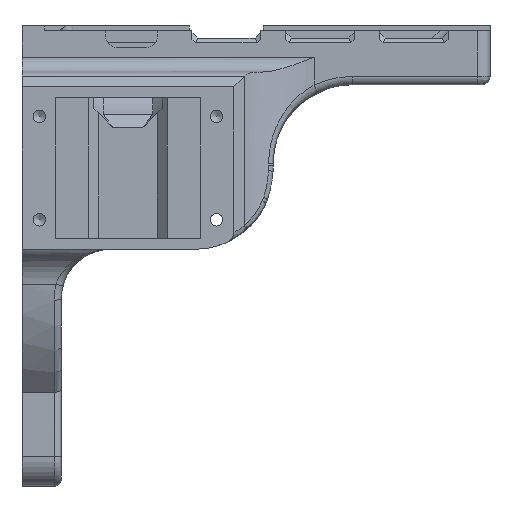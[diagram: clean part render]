
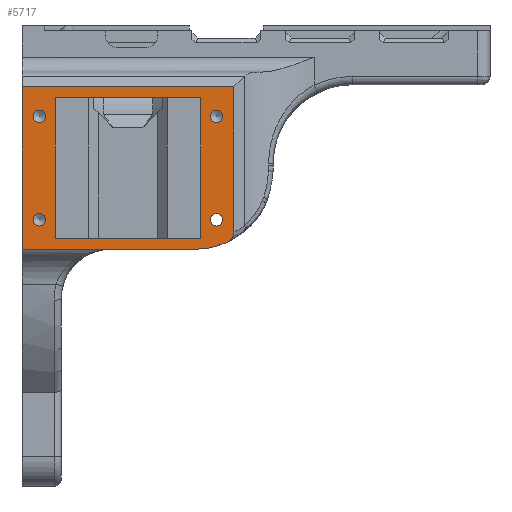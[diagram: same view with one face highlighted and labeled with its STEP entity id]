
A CAD part, front view. The second image highlights one B-rep face of the part: STEP entity #5717.
In plain terms, the highlighted planar face has unit normal (0, -1, 0).
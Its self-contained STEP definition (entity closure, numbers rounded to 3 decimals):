
#260=CIRCLE('',#6207,16.);
#261=CIRCLE('',#6208,1.265);
#262=CIRCLE('',#6209,1.265);
#263=CIRCLE('',#6210,1.265);
#264=CIRCLE('',#6211,1.265);
#369=PLANE('',#6206);
#502=FACE_BOUND('',#1014,.T.);
#503=FACE_BOUND('',#1015,.T.);
#504=FACE_BOUND('',#1016,.T.);
#505=FACE_BOUND('',#1017,.T.);
#506=FACE_BOUND('',#1018,.T.);
#664=FACE_OUTER_BOUND('',#1013,.T.);
#1013=EDGE_LOOP('',(#4597,#4598,#4599,#4600,#4601,#4602));
#1014=EDGE_LOOP('',(#4603));
#1015=EDGE_LOOP('',(#4604));
#1016=EDGE_LOOP('',(#4605));
#1017=EDGE_LOOP('',(#4606));
#1018=EDGE_LOOP('',(#4607,#4608,#4609,#4610));
#1206=LINE('',#8165,#1679);
#1405=LINE('',#9667,#1878);
#1432=LINE('',#10165,#1905);
#1433=LINE('',#10167,#1906);
#1434=LINE('',#10179,#1907);
#1435=LINE('',#10181,#1908);
#1436=LINE('',#10183,#1909);
#1437=LINE('',#10184,#1910);
#1679=VECTOR('',#6496,10.);
#1878=VECTOR('',#7143,10.);
#1905=VECTOR('',#7324,10.);
#1906=VECTOR('',#7325,10.);
#1907=VECTOR('',#7336,10.);
#1908=VECTOR('',#7337,10.);
#1909=VECTOR('',#7338,10.);
#1910=VECTOR('',#7339,10.);
#2211=B_SPLINE_CURVE_WITH_KNOTS('',3,(#9948,#9949,#9950,#9951,#9952,#9953,
#9954,#9955,#9956,#9957),.UNSPECIFIED.,.F.,.F.,(4,2,2,2,4),(0.,0.057,
0.133,0.197,0.265),.UNSPECIFIED.);
#2315=VERTEX_POINT('',#8162);
#2316=VERTEX_POINT('',#8164);
#2598=VERTEX_POINT('',#9664);
#2599=VERTEX_POINT('',#9666);
#2627=VERTEX_POINT('',#9947);
#2648=VERTEX_POINT('',#10166);
#2649=VERTEX_POINT('',#10169);
#2650=VERTEX_POINT('',#10171);
#2651=VERTEX_POINT('',#10173);
#2652=VERTEX_POINT('',#10175);
#2653=VERTEX_POINT('',#10177);
#2654=VERTEX_POINT('',#10178);
#2655=VERTEX_POINT('',#10180);
#2656=VERTEX_POINT('',#10182);
#2884=EDGE_CURVE('',#2316,#2315,#1206,.T.);
#3276=EDGE_CURVE('',#2599,#2598,#1405,.T.);
#3328=EDGE_CURVE('',#2599,#2627,#2211,.T.);
#3366=EDGE_CURVE('',#2316,#2598,#1432,.T.);
#3367=EDGE_CURVE('',#2315,#2648,#1433,.T.);
#3368=EDGE_CURVE('',#2627,#2648,#260,.T.);
#3369=EDGE_CURVE('',#2649,#2649,#261,.T.);
#3370=EDGE_CURVE('',#2650,#2650,#262,.T.);
#3371=EDGE_CURVE('',#2651,#2651,#263,.T.);
#3372=EDGE_CURVE('',#2652,#2652,#264,.T.);
#3373=EDGE_CURVE('',#2653,#2654,#1434,.T.);
#3374=EDGE_CURVE('',#2654,#2655,#1435,.T.);
#3375=EDGE_CURVE('',#2655,#2656,#1436,.T.);
#3376=EDGE_CURVE('',#2656,#2653,#1437,.T.);
#4597=ORIENTED_EDGE('',*,*,#3328,.F.);
#4598=ORIENTED_EDGE('',*,*,#3276,.T.);
#4599=ORIENTED_EDGE('',*,*,#3366,.F.);
#4600=ORIENTED_EDGE('',*,*,#2884,.T.);
#4601=ORIENTED_EDGE('',*,*,#3367,.T.);
#4602=ORIENTED_EDGE('',*,*,#3368,.F.);
#4603=ORIENTED_EDGE('',*,*,#3369,.T.);
#4604=ORIENTED_EDGE('',*,*,#3370,.T.);
#4605=ORIENTED_EDGE('',*,*,#3371,.T.);
#4606=ORIENTED_EDGE('',*,*,#3372,.T.);
#4607=ORIENTED_EDGE('',*,*,#3373,.T.);
#4608=ORIENTED_EDGE('',*,*,#3374,.T.);
#4609=ORIENTED_EDGE('',*,*,#3375,.T.);
#4610=ORIENTED_EDGE('',*,*,#3376,.T.);
#5717=ADVANCED_FACE('',(#664,#502,#503,#504,#505,#506),#369,.T.);
#6206=AXIS2_PLACEMENT_3D('',#10164,#7322,#7323);
#6207=AXIS2_PLACEMENT_3D('',#10168,#7326,#7327);
#6208=AXIS2_PLACEMENT_3D('',#10170,#7328,#7329);
#6209=AXIS2_PLACEMENT_3D('',#10172,#7330,#7331);
#6210=AXIS2_PLACEMENT_3D('',#10174,#7332,#7333);
#6211=AXIS2_PLACEMENT_3D('',#10176,#7334,#7335);
#6496=DIRECTION('',(0.,0.,-1.));
#7143=DIRECTION('',(0.,0.,1.));
#7322=DIRECTION('center_axis',(0.,-1.,0.));
#7323=DIRECTION('ref_axis',(0.,0.,-1.));
#7324=DIRECTION('',(1.,0.,0.));
#7325=DIRECTION('',(1.,0.,0.));
#7326=DIRECTION('center_axis',(0.,1.,0.));
#7327=DIRECTION('ref_axis',(0.707,0.,-0.707));
#7328=DIRECTION('center_axis',(0.,1.,0.));
#7329=DIRECTION('ref_axis',(0.,0.,-1.));
#7330=DIRECTION('center_axis',(0.,1.,0.));
#7331=DIRECTION('ref_axis',(0.,0.,-1.));
#7332=DIRECTION('center_axis',(0.,1.,0.));
#7333=DIRECTION('ref_axis',(0.,0.,-1.));
#7334=DIRECTION('center_axis',(0.,1.,0.));
#7335=DIRECTION('ref_axis',(0.,0.,-1.));
#7336=DIRECTION('',(0.,0.,1.));
#7337=DIRECTION('',(1.,0.,0.));
#7338=DIRECTION('',(0.,0.,-1.));
#7339=DIRECTION('',(-1.,0.,0.));
#8162=CARTESIAN_POINT('',(0.,-45.5,3.1));
#8164=CARTESIAN_POINT('',(0.,-45.5,36.1));
#8165=CARTESIAN_POINT('',(0.,-45.5,3.1));
#9664=CARTESIAN_POINT('',(43.,-45.5,36.1));
#9666=CARTESIAN_POINT('',(43.,-45.5,6.519));
#9667=CARTESIAN_POINT('',(43.,-45.5,39.1));
#9947=CARTESIAN_POINT('',(41.261,-45.5,4.376));
#9948=CARTESIAN_POINT('Ctrl Pts',(43.,-45.5,6.519));
#9949=CARTESIAN_POINT('Ctrl Pts',(43.,-45.5,6.329));
#9950=CARTESIAN_POINT('Ctrl Pts',(42.961,-45.5,6.14));
#9951=CARTESIAN_POINT('Ctrl Pts',(42.808,-45.5,5.722));
#9952=CARTESIAN_POINT('Ctrl Pts',(42.668,-45.5,5.485));
#9953=CARTESIAN_POINT('Ctrl Pts',(42.323,-45.5,5.075));
#9954=CARTESIAN_POINT('Ctrl Pts',(42.14,-45.5,4.907));
#9955=CARTESIAN_POINT('Ctrl Pts',(41.732,-45.5,4.608));
#9956=CARTESIAN_POINT('Ctrl Pts',(41.502,-45.5,4.478));
#9957=CARTESIAN_POINT('Ctrl Pts',(41.261,-45.5,4.376));
#10164=CARTESIAN_POINT('Origin',(21.5,-45.5,21.1));
#10165=CARTESIAN_POINT('',(32.25,-45.5,36.1));
#10166=CARTESIAN_POINT('',(35.,-45.5,3.1));
#10167=CARTESIAN_POINT('',(43.,-45.5,3.1));
#10168=CARTESIAN_POINT('Origin',(35.,-45.5,19.1));
#10169=CARTESIAN_POINT('',(3.5,-45.5,31.365));
#10170=CARTESIAN_POINT('Origin',(3.5,-45.5,30.1));
#10171=CARTESIAN_POINT('',(39.5,-45.5,10.365));
#10172=CARTESIAN_POINT('Origin',(39.5,-45.5,9.1));
#10173=CARTESIAN_POINT('',(39.5,-45.5,31.365));
#10174=CARTESIAN_POINT('Origin',(39.5,-45.5,30.1));
#10175=CARTESIAN_POINT('',(3.5,-45.5,10.365));
#10176=CARTESIAN_POINT('Origin',(3.5,-45.5,9.1));
#10177=CARTESIAN_POINT('',(6.75,-45.5,5.35));
#10178=CARTESIAN_POINT('',(6.75,-45.5,33.85));
#10179=CARTESIAN_POINT('',(6.75,-45.5,13.225));
#10180=CARTESIAN_POINT('',(36.25,-45.5,33.85));
#10181=CARTESIAN_POINT('',(14.125,-45.5,33.85));
#10182=CARTESIAN_POINT('',(36.25,-45.5,5.35));
#10183=CARTESIAN_POINT('',(36.25,-45.5,27.475));
#10184=CARTESIAN_POINT('',(28.875,-45.5,5.35));
